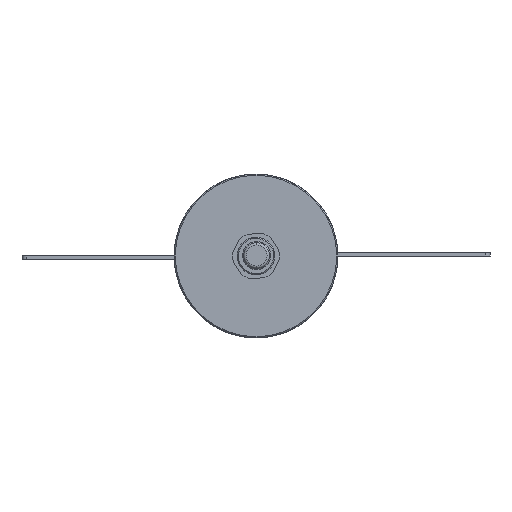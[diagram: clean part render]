
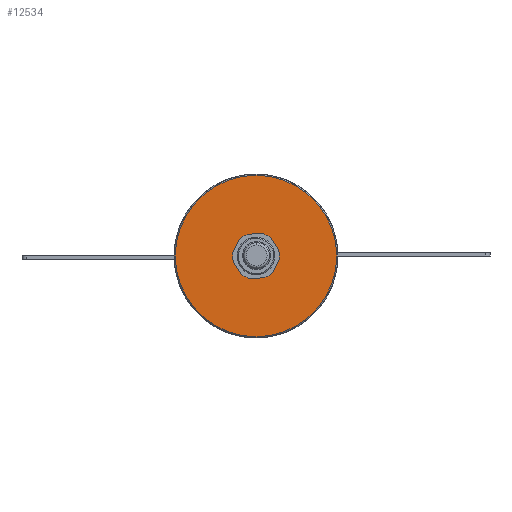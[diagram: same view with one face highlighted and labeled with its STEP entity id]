
A CAD part, left-side view. The second image highlights one B-rep face of the part: STEP entity #12534.
In plain terms, the highlighted planar face has unit normal (-1, 0, 0).
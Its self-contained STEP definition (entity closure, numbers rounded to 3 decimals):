
#388 = EDGE_CURVE ( 'NONE', #13728, #18175, #16964, .T. ) ;
#576 = FACE_BOUND ( 'NONE', #11251, .T. ) ;
#1142 = EDGE_CURVE ( 'NONE', #8893, #21471, #16816, .T. ) ;
#3519 = DIRECTION ( 'NONE',  ( 0., 0., 1. ) ) ;
#3939 = CARTESIAN_POINT ( 'NONE',  ( -57., 0., -6.05 ) ) ;
#3954 = CARTESIAN_POINT ( 'NONE',  ( -57., 0., 6.05 ) ) ;
#4621 = DIRECTION ( 'NONE',  ( 0., -1., 0. ) ) ;
#5704 = AXIS2_PLACEMENT_3D ( 'NONE', #16786, #24639, #6990 ) ;
#6397 = DIRECTION ( 'NONE',  ( -1., 0., 0. ) ) ;
#6500 = DIRECTION ( 'NONE',  ( 0., 1., 0. ) ) ;
#6990 = DIRECTION ( 'NONE',  ( 0., -1., 0. ) ) ;
#8446 = PLANE ( 'NONE',  #23807 ) ;
#8893 = VERTEX_POINT ( 'NONE', #9529 ) ;
#9529 = CARTESIAN_POINT ( 'NONE',  ( -57., -34.5, 0. ) ) ;
#10041 = CIRCLE ( 'NONE', #24449, 34.5 ) ;
#11251 = EDGE_LOOP ( 'NONE', ( #11424, #14954 ) ) ;
#11424 = ORIENTED_EDGE ( 'NONE', *, *, #17956, .F. ) ;
#12148 = EDGE_LOOP ( 'NONE', ( #23023, #25483 ) ) ;
#12426 = AXIS2_PLACEMENT_3D ( 'NONE', #13309, #21168, #3519 ) ;
#12534 = ADVANCED_FACE ( 'NONE', ( #18234, #576 ), #8446, .T. ) ;
#13309 = CARTESIAN_POINT ( 'NONE',  ( -57., 0., 0. ) ) ;
#13728 = VERTEX_POINT ( 'NONE', #3939 ) ;
#14258 = DIRECTION ( 'NONE',  ( 0., 0., 1. ) ) ;
#14410 = CARTESIAN_POINT ( 'NONE',  ( -57., 0., 0. ) ) ;
#14954 = ORIENTED_EDGE ( 'NONE', *, *, #388, .F. ) ;
#16307 = CARTESIAN_POINT ( 'NONE',  ( -57., 35., 0. ) ) ;
#16786 = CARTESIAN_POINT ( 'NONE',  ( -57., 0., 0. ) ) ;
#16816 = CIRCLE ( 'NONE', #5704, 34.5 ) ;
#16964 = CIRCLE ( 'NONE', #20660, 6.05 ) ;
#17381 = CARTESIAN_POINT ( 'NONE',  ( -57., 34.5, 0. ) ) ;
#17956 = EDGE_CURVE ( 'NONE', #18175, #13728, #23530, .T. ) ;
#18175 = VERTEX_POINT ( 'NONE', #3954 ) ;
#18234 = FACE_OUTER_BOUND ( 'NONE', #12148, .T. ) ;
#20660 = AXIS2_PLACEMENT_3D ( 'NONE', #24043, #6397, #14258 ) ;
#21168 = DIRECTION ( 'NONE',  ( -1., 0., 0. ) ) ;
#21471 = VERTEX_POINT ( 'NONE', #17381 ) ;
#22262 = DIRECTION ( 'NONE',  ( -1., 0., 0. ) ) ;
#23023 = ORIENTED_EDGE ( 'NONE', *, *, #24265, .T. ) ;
#23530 = CIRCLE ( 'NONE', #12426, 6.05 ) ;
#23807 = AXIS2_PLACEMENT_3D ( 'NONE', #16307, #24147, #6500 ) ;
#24043 = CARTESIAN_POINT ( 'NONE',  ( -57., 0., 0. ) ) ;
#24147 = DIRECTION ( 'NONE',  ( -1., 0., 0. ) ) ;
#24265 = EDGE_CURVE ( 'NONE', #21471, #8893, #10041, .T. ) ;
#24449 = AXIS2_PLACEMENT_3D ( 'NONE', #14410, #22262, #4621 ) ;
#24639 = DIRECTION ( 'NONE',  ( -1., 0., 0. ) ) ;
#25483 = ORIENTED_EDGE ( 'NONE', *, *, #1142, .T. ) ;
